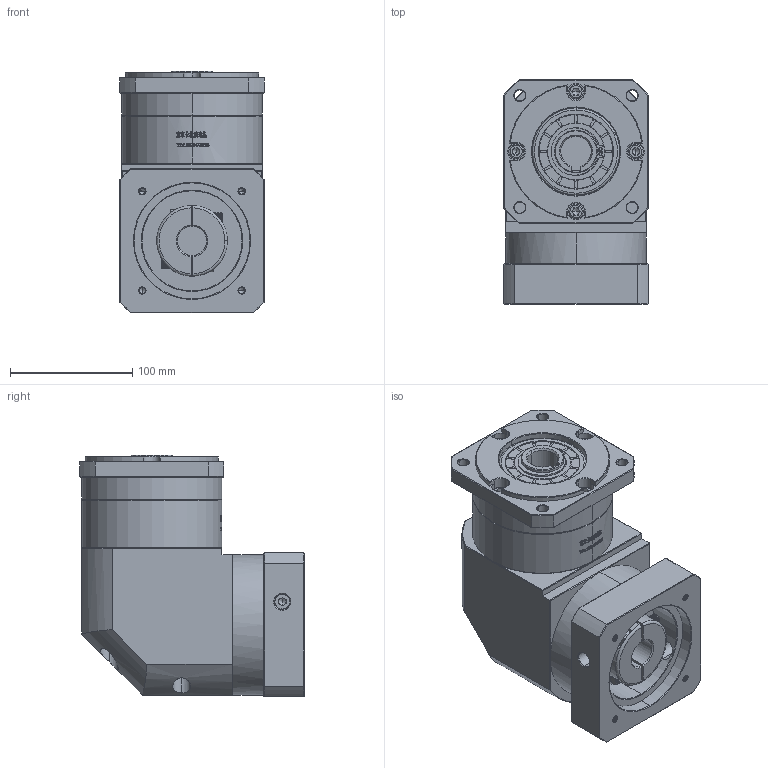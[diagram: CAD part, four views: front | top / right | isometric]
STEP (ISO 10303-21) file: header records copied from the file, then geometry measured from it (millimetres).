
FILE_DESCRIPTION (( 'STEP AP214' ), '1' );
FILE_NAME ('ZFR120A-K25-L1-24-95-115-M6.step', '2023-03-08T08:30:24', ( '' ), ( '' ), 'SwSTEP 2.0', 'SolidWorks 2016', '' );
FILE_SCHEMA (( 'AUTOMOTIVE_DESIGN' ));
Length unit declared in the file: millimetre
Products named in the file (1): ZFR120A-K25-L1-24-95-115-M6
Bounding box: 118 x 183.9 x 198 mm (x, y, z)
Volume: 2751437.4 mm3; surface area: 233491 mm2
Topology: 6 solids, 6 shells, 2801 faces, 7478 edges, 4821 vertices
Faces by surface type: plane 1476, bspline 601, cylinder 386, cone 330, torus 8
Entity records: 152639 total; most frequent: CARTESIAN_POINT 57572, ORIENTED_EDGE 14900, DIRECTION 10855, EDGE_CURVE 7450, VERTEX_POINT 4821, VECTOR 4675, LINE 4675, AXIS2_PLACEMENT_3D 3090
